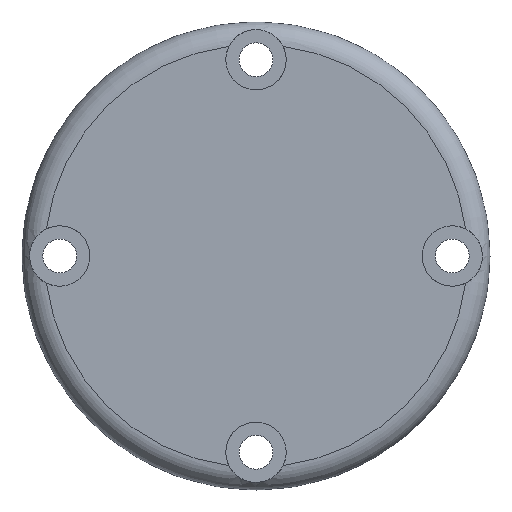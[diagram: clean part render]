
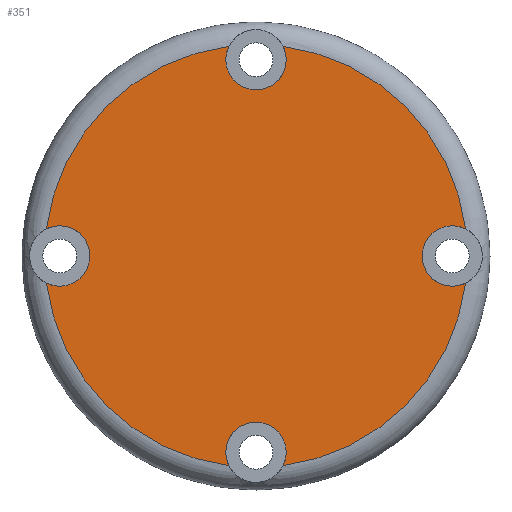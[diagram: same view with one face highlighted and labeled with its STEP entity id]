
A CAD part, left-side view. The second image highlights one B-rep face of the part: STEP entity #351.
In plain terms, the highlighted planar face has unit normal (-1, 0, 0).
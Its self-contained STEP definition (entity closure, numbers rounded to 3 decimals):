
#31=PLANE('',#410);
#45=FACE_OUTER_BOUND('',#69,.T.);
#69=EDGE_LOOP('',(#269,#270,#271,#272,#273,#274,#275,#276,#277,#278,#279,
#280));
#110=CIRCLE('',#387,4.);
#112=CIRCLE('',#389,4.);
#115=CIRCLE('',#395,4.);
#117=CIRCLE('',#397,4.);
#120=CIRCLE('',#403,4.);
#122=CIRCLE('',#405,4.);
#125=CIRCLE('',#411,28.);
#126=CIRCLE('',#412,28.);
#127=CIRCLE('',#413,28.);
#128=CIRCLE('',#414,4.);
#129=CIRCLE('',#415,4.);
#130=CIRCLE('',#416,28.);
#149=VERTEX_POINT('',#566);
#150=VERTEX_POINT('',#567);
#151=VERTEX_POINT('',#584);
#155=VERTEX_POINT('',#598);
#156=VERTEX_POINT('',#599);
#157=VERTEX_POINT('',#616);
#161=VERTEX_POINT('',#630);
#163=VERTEX_POINT('',#642);
#165=VERTEX_POINT('',#647);
#168=VERTEX_POINT('',#669);
#169=VERTEX_POINT('',#671);
#170=VERTEX_POINT('',#673);
#183=EDGE_CURVE('',#151,#149,#110,.T.);
#186=EDGE_CURVE('',#150,#151,#112,.T.);
#191=EDGE_CURVE('',#157,#155,#115,.T.);
#194=EDGE_CURVE('',#156,#157,#117,.T.);
#199=EDGE_CURVE('',#163,#161,#120,.T.);
#202=EDGE_CURVE('',#165,#163,#122,.T.);
#207=EDGE_CURVE('',#156,#149,#125,.T.);
#208=EDGE_CURVE('',#165,#155,#126,.T.);
#209=EDGE_CURVE('',#168,#161,#127,.T.);
#210=EDGE_CURVE('',#168,#169,#128,.T.);
#211=EDGE_CURVE('',#169,#170,#129,.T.);
#212=EDGE_CURVE('',#150,#170,#130,.T.);
#269=ORIENTED_EDGE('',*,*,#186,.T.);
#270=ORIENTED_EDGE('',*,*,#183,.T.);
#271=ORIENTED_EDGE('',*,*,#207,.F.);
#272=ORIENTED_EDGE('',*,*,#194,.T.);
#273=ORIENTED_EDGE('',*,*,#191,.T.);
#274=ORIENTED_EDGE('',*,*,#208,.F.);
#275=ORIENTED_EDGE('',*,*,#202,.T.);
#276=ORIENTED_EDGE('',*,*,#199,.T.);
#277=ORIENTED_EDGE('',*,*,#209,.F.);
#278=ORIENTED_EDGE('',*,*,#210,.T.);
#279=ORIENTED_EDGE('',*,*,#211,.T.);
#280=ORIENTED_EDGE('',*,*,#212,.F.);
#351=ADVANCED_FACE('',(#45),#31,.T.);
#387=AXIS2_PLACEMENT_3D('',#585,#445,#446);
#389=AXIS2_PLACEMENT_3D('',#589,#450,#451);
#395=AXIS2_PLACEMENT_3D('',#617,#463,#464);
#397=AXIS2_PLACEMENT_3D('',#621,#468,#469);
#403=AXIS2_PLACEMENT_3D('',#643,#481,#482);
#405=AXIS2_PLACEMENT_3D('',#648,#486,#487);
#410=AXIS2_PLACEMENT_3D('',#666,#497,#498);
#411=AXIS2_PLACEMENT_3D('',#667,#499,#500);
#412=AXIS2_PLACEMENT_3D('',#668,#501,#502);
#413=AXIS2_PLACEMENT_3D('',#670,#503,#504);
#414=AXIS2_PLACEMENT_3D('',#672,#505,#506);
#415=AXIS2_PLACEMENT_3D('',#674,#507,#508);
#416=AXIS2_PLACEMENT_3D('',#675,#509,#510);
#445=DIRECTION('center_axis',(1.,0.,0.));
#446=DIRECTION('ref_axis',(0.,1.,0.));
#450=DIRECTION('center_axis',(1.,0.,0.));
#451=DIRECTION('ref_axis',(0.,1.,0.));
#463=DIRECTION('center_axis',(1.,0.,0.));
#464=DIRECTION('ref_axis',(0.,0.,-1.));
#468=DIRECTION('center_axis',(1.,0.,0.));
#469=DIRECTION('ref_axis',(0.,0.,-1.));
#481=DIRECTION('center_axis',(1.,0.,0.));
#482=DIRECTION('ref_axis',(0.,-1.,0.));
#486=DIRECTION('center_axis',(1.,0.,0.));
#487=DIRECTION('ref_axis',(0.,-1.,0.));
#497=DIRECTION('center_axis',(-1.,0.,0.));
#498=DIRECTION('ref_axis',(0.,0.,1.));
#499=DIRECTION('center_axis',(1.,0.,0.));
#500=DIRECTION('ref_axis',(0.,0.,-1.));
#501=DIRECTION('center_axis',(1.,0.,0.));
#502=DIRECTION('ref_axis',(0.,0.,-1.));
#503=DIRECTION('center_axis',(1.,0.,0.));
#504=DIRECTION('ref_axis',(0.,0.,-1.));
#505=DIRECTION('center_axis',(1.,0.,0.));
#506=DIRECTION('ref_axis',(0.,0.,1.));
#507=DIRECTION('center_axis',(1.,0.,0.));
#508=DIRECTION('ref_axis',(0.,0.,1.));
#509=DIRECTION('center_axis',(1.,0.,0.));
#510=DIRECTION('ref_axis',(0.,0.,-1.));
#566=CARTESIAN_POINT('',(0.,-3.587,-27.769));
#567=CARTESIAN_POINT('',(0.,3.587,-27.769));
#584=CARTESIAN_POINT('',(0.,-4.,-26.));
#585=CARTESIAN_POINT('Origin',(0.,0.,-26.));
#589=CARTESIAN_POINT('Origin',(0.,0.,-26.));
#598=CARTESIAN_POINT('',(0.,-27.769,3.587));
#599=CARTESIAN_POINT('',(0.,-27.769,-3.587));
#616=CARTESIAN_POINT('',(0.,-26.,4.));
#617=CARTESIAN_POINT('Origin',(0.,-26.,0.));
#621=CARTESIAN_POINT('Origin',(0.,-26.,0.));
#630=CARTESIAN_POINT('',(0.,3.587,27.769));
#642=CARTESIAN_POINT('',(0.,4.,26.));
#643=CARTESIAN_POINT('Origin',(0.,0.,26.));
#647=CARTESIAN_POINT('',(0.,-3.587,27.769));
#648=CARTESIAN_POINT('Origin',(0.,0.,26.));
#666=CARTESIAN_POINT('Origin',(0.,28.,0.));
#667=CARTESIAN_POINT('Origin',(0.,0.,0.));
#668=CARTESIAN_POINT('Origin',(0.,0.,0.));
#669=CARTESIAN_POINT('',(0.,27.769,3.587));
#670=CARTESIAN_POINT('Origin',(0.,0.,0.));
#671=CARTESIAN_POINT('',(0.,26.,-4.));
#672=CARTESIAN_POINT('Origin',(0.,26.,0.));
#673=CARTESIAN_POINT('',(0.,27.769,-3.587));
#674=CARTESIAN_POINT('Origin',(0.,26.,0.));
#675=CARTESIAN_POINT('Origin',(0.,0.,0.));
